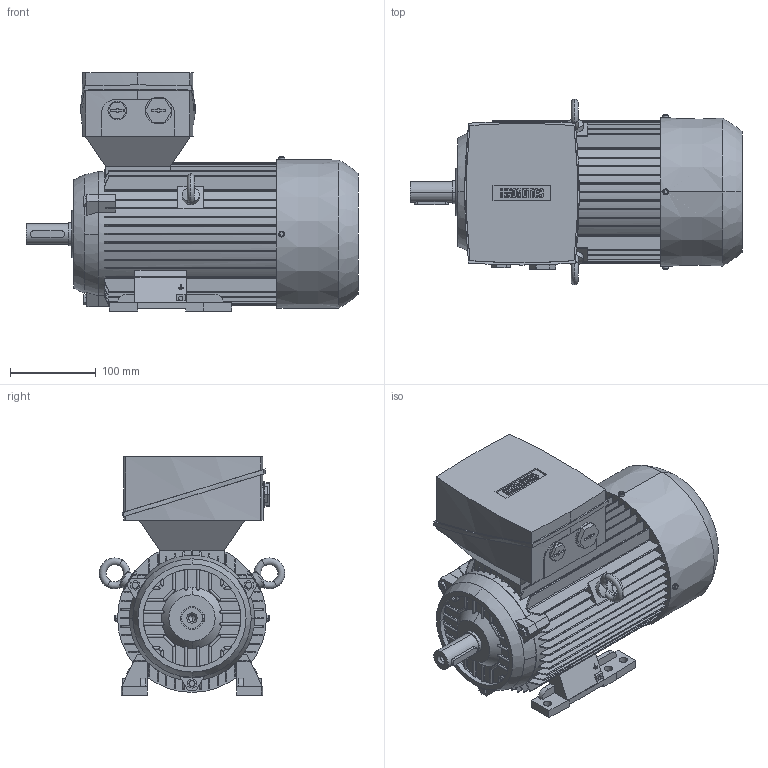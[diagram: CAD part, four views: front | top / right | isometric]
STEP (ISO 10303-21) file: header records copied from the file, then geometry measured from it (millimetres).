
FILE_DESCRIPTION(('STEP AP214'),'1');
FILE_NAME('cctmp_28F42005-E986-4696-9068-D6BEE301B279_2026_04_16_10_12_11_0437_54060..stp','2026-04-16T08:12:11',('KiM GmbH'),('CADClick - www.CADClick.com'),'Spatial InterOp 3D',' ','unknown authorization');
FILE_SCHEMA(('AUTOMOTIVE_DESIGN'));
Length unit declared in the file: millimetre
Products named in the file (1): 2026_04_16_10_12_11_0436
Bounding box: 387 x 216.39 x 278 mm (x, y, z)
Volume: 8280585.9 mm3; surface area: 541898.2 mm2
Topology: 5 solids, 5 shells, 1032 faces, 2930 edges, 1912 vertices
Faces by surface type: plane 647, cylinder 247, torus 110, cone 24, sphere 4
Entity records: 44353 total; most frequent: CARTESIAN_POINT 9281, ORIENTED_EDGE 5796, DIRECTION 5430, EDGE_CURVE 2896, VERTEX_POINT 1912, AXIS2_PLACEMENT_3D 1840, LINE 1750, VECTOR 1750
